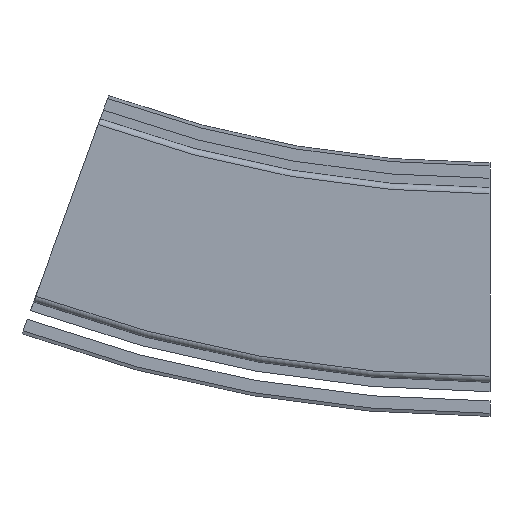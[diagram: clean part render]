
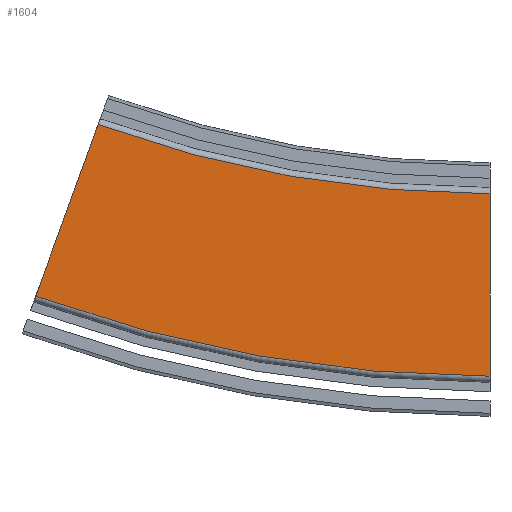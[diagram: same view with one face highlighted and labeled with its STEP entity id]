
A CAD part, front view. The second image highlights one B-rep face of the part: STEP entity #1604.
In plain terms, the highlighted planar face has unit normal (0, -1, 0).
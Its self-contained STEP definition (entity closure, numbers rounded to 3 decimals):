
#140=PLANE('',#1768);
#227=FACE_OUTER_BOUND('',#319,.T.);
#319=EDGE_LOOP('',(#1408,#1409,#1410,#1411));
#361=CIRCLE('',#1715,370.5);
#380=CIRCLE('',#1751,429.5);
#512=LINE('',#7331,#638);
#513=LINE('',#7332,#639);
#638=VECTOR('',#2170,10.);
#639=VECTOR('',#2171,10.);
#748=VERTEX_POINT('',#7181);
#749=VERTEX_POINT('',#7183);
#780=VERTEX_POINT('',#7280);
#782=VERTEX_POINT('',#7283);
#955=EDGE_CURVE('',#748,#749,#361,.T.);
#1004=EDGE_CURVE('',#780,#782,#380,.T.);
#1028=EDGE_CURVE('',#748,#780,#512,.T.);
#1029=EDGE_CURVE('',#782,#749,#513,.T.);
#1408=ORIENTED_EDGE('',*,*,#1028,.F.);
#1409=ORIENTED_EDGE('',*,*,#955,.T.);
#1410=ORIENTED_EDGE('',*,*,#1029,.F.);
#1411=ORIENTED_EDGE('',*,*,#1004,.F.);
#1604=ADVANCED_FACE('',(#227),#140,.T.);
#1715=AXIS2_PLACEMENT_3D('',#7185,#2018,#2019);
#1751=AXIS2_PLACEMENT_3D('',#7284,#2120,#2121);
#1768=AXIS2_PLACEMENT_3D('',#7330,#2168,#2169);
#2018=DIRECTION('center_axis',(0.,1.,0.));
#2019=DIRECTION('ref_axis',(0.,0.,
-1.));
#2120=DIRECTION('center_axis',(0.,1.,0.));
#2121=DIRECTION('ref_axis',(0.,0.,-1.));
#2168=DIRECTION('center_axis',(0.,-1.,0.));
#2169=DIRECTION('ref_axis',(0.,0.,-1.));
#2170=DIRECTION('',(0.,0.,-1.));
#2171=DIRECTION('',(0.342,0.,0.94));
#7181=CARTESIAN_POINT('',(0.,-73.,29.5));
#7183=CARTESIAN_POINT('',(-126.718,-73.,51.844));
#7185=CARTESIAN_POINT('Origin',(0.,-73.,
400.));
#7280=CARTESIAN_POINT('',(0.,-73.,-29.5));
#7283=CARTESIAN_POINT('',(-146.898,-73.,-3.598));
#7284=CARTESIAN_POINT('Origin',(0.,-73.,
400.));
#7330=CARTESIAN_POINT('Origin',(0.,-73.,-5.5));
#7331=CARTESIAN_POINT('',(0.,-73.,5.5));
#7332=CARTESIAN_POINT('',(-138.689,-73.,18.955));
